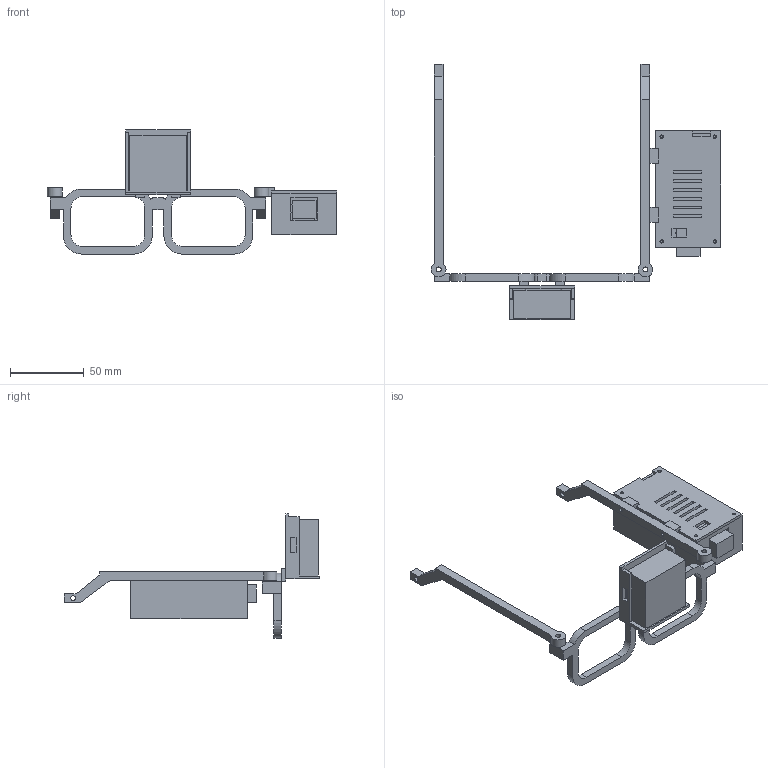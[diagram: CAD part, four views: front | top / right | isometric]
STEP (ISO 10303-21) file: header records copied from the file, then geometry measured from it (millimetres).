
FILE_DESCRIPTION(('FreeCAD Model'),'2;1');
FILE_NAME('Open CASCADE Shape Model','2026-10-29T21:21:02',('FreeCAD'),( 'FreeCAD'),'Open CASCADE STEP processor 7.8','FreeCAD','Unknown');
FILE_SCHEMA(('AUTOMOTIVE_DESIGN { 1 0 10303 214 1 1 1 1 }'));
Length unit declared in the file: millimetre
Products named in the file (1): Open CASCADE STEP translator 7.8 1
Bounding box: 195.98 x 173 x 84 mm (x, y, z)
Volume: 98374.3 mm3; surface area: 68947.9 mm2
Topology: 12 solids, 12 shells, 330 faces, 900 edges, 604 vertices
Faces by surface type: plane 218, cylinder 112
Full cylindrical faces by diameter (mm): 0.8 x2, 0.9 x2, 1 x44, 1.6 x8, 2.2 x4, 2.4 x12, 3.2 x2, 3.4 x4, 5 x4
Entity records: 10800 total; most frequent: CARTESIAN_POINT 1835, DIRECTION 1806, ORIENTED_EDGE 1800, EDGE_CURVE 900, LINE 656, VECTOR 656, VERTEX_POINT 604, AXIS2_PLACEMENT_3D 575
